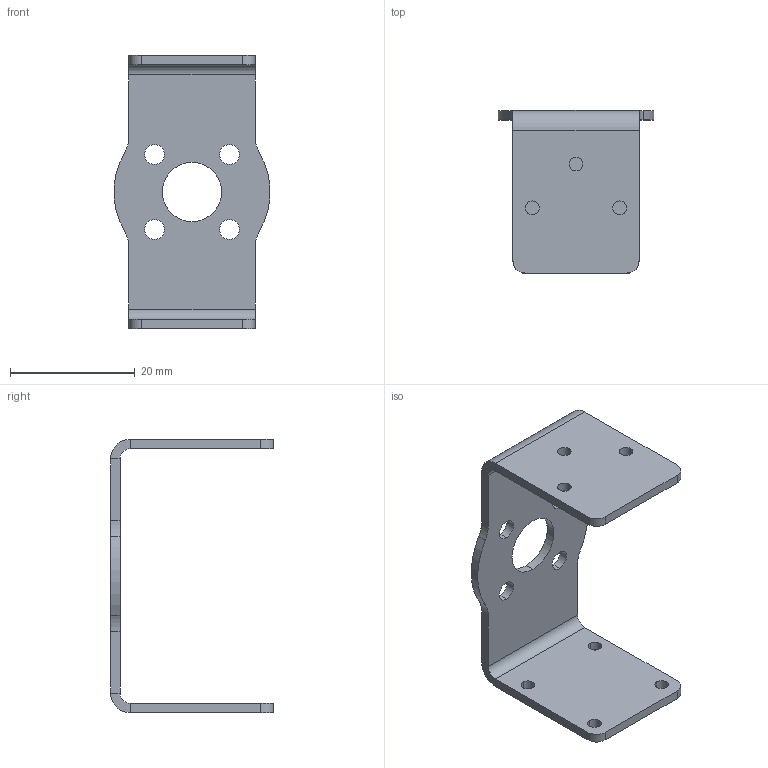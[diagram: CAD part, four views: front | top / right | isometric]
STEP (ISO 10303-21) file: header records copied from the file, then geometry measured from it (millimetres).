
FILE_DESCRIPTION (( 'STEP AP214' ), '1' );
FILE_NAME ('30x Bracket C.STEP', '2024-02-28T20:49:29', ( '' ), ( '' ), 'SwSTEP 2.0', 'SolidWorks 2023', '' );
FILE_SCHEMA (( 'AUTOMOTIVE_DESIGN' ));
Length unit declared in the file: millimetre
Products named in the file (1): 30x Bracket C
Bounding box: 24.93 x 26.05 x 43.8 mm (x, y, z)
Volume: 2626.1 mm3; surface area: 4009.7 mm2
Topology: 1 solids, 1 shells, 58 faces, 152 edges, 96 vertices
Faces by surface type: cylinder 38, plane 20
Entity records: 1875 total; most frequent: DIRECTION 346, CARTESIAN_POINT 307, ORIENTED_EDGE 304, EDGE_CURVE 152, AXIS2_PLACEMENT_3D 135, VERTEX_POINT 96, EDGE_LOOP 82, LINE 76
